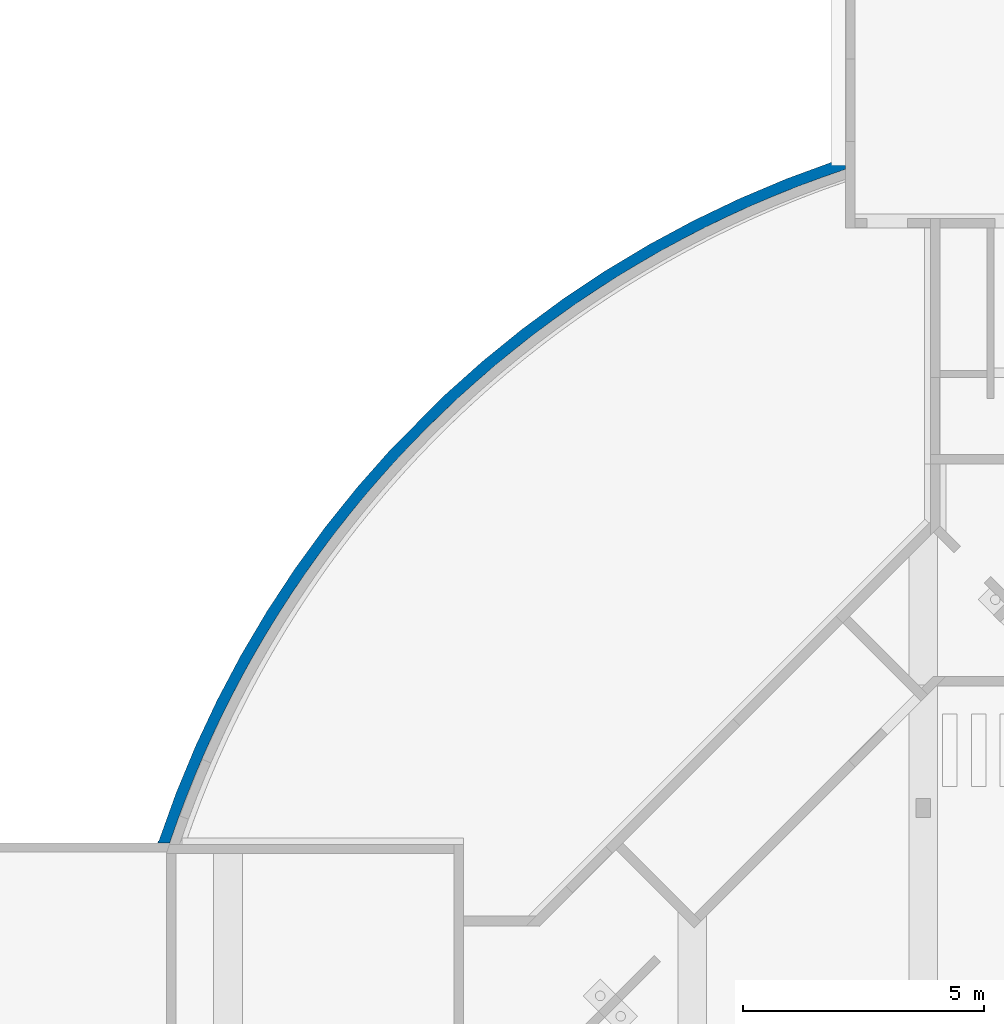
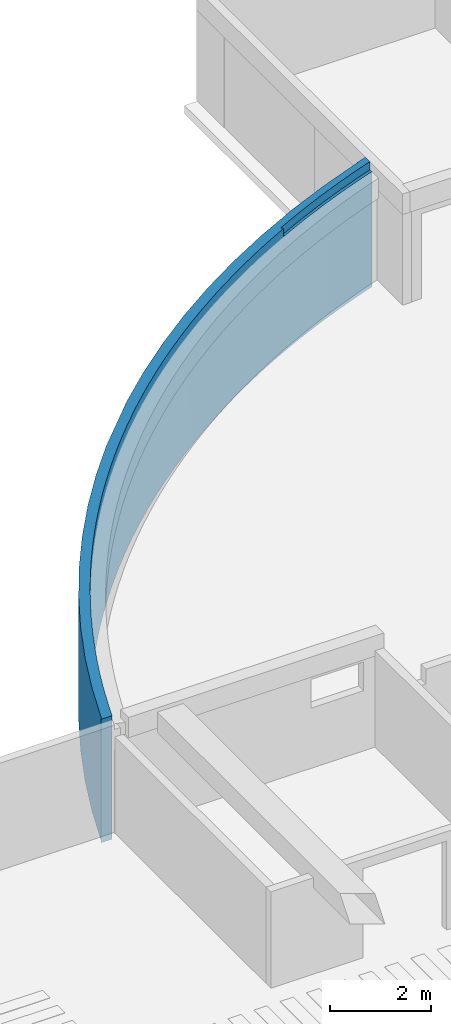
# One storey, part 10 of 12: 1 wall.
"""IFC4X3_ADD2 building model written with IfcOpenShell, lengths in millimetres."""

from ifc_helpers import new_model, si_unit, direction, frame, origin_with_axes, place, context, subcontext, project, spatial, polygons, element, save


model = new_model("IFC4X3_ADD2")

# Units and contexts
model_context = context("Model", 3, precision=1e-05, world=origin_with_axes(), true_north=direction((0.0, 1.0)))
body_context = subcontext(model_context, "Body", "Model", "MODEL_VIEW")
ifc_project = project(units=[si_unit("LENGTHUNIT", "METRE", prefix="MILLI"), si_unit("AREAUNIT", "SQUARE_METRE"), si_unit("VOLUMEUNIT", "CUBIC_METRE"), si_unit("PLANEANGLEUNIT", "RADIAN"), si_unit("TIMEUNIT", "SECOND"), si_unit("MASSUNIT", "GRAM")], contexts=[model_context])

# Site, building, storey
site_placement = place(None, origin_with_axes())
site = spatial("IfcSite", under=ifc_project, at=site_placement, Name="Site", CompositionType="ELEMENT")
building_placement = place(site_placement, origin_with_axes())
building = spatial("IfcBuilding", under=site, at=building_placement, Name="IFC Building Story")
storey_placement = place(building_placement, frame((0.0, 0.0, -5940.0), z_axis=(0.0, 0.0, 1.0), x_axis=(1.0, 0.0, 0.0)))
storey = spatial("IfcBuildingStorey", under=building, at=storey_placement, Name="K20", Elevation=-5940.0)

# Wall
wall_placement = place(storey_placement, frame((0.0, 0.0, 5940.0), z_axis=(0.0, 0.0, 1.0), x_axis=(1.0, 0.0, 0.0)))
element("IfcWall", 1, at=wall_placement, inside=storey, Name="Basic Wall:BB_XX_Wand uit beton, 240 mm", ObjectType="Basic Wall:BB_XX_Wand uit beton, 240 mm", PredefinedType="SOLIDWALL", context=body_context, shape_type="Tessellation", body=[
    polygons([(-44957.61071340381, 30740.80396451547, -5771.250000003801), (-44962.87173923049, 30725.00000000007, -5864.999999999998), (-44962.8717392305, 30725.00000000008, -5677.499999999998), (-44956.96422718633, 30742.74329582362, -5447.034995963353), (-44956.28592506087, 30744.77743647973, -5299.469790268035), (-44951.20297659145, 30760.00000000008, -5394.170662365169), (-44957.04454322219, 30742.50239553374, -3485.31399839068), (-44957.69724518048, 30740.5443415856, -3362.65696299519), (-44951.20297659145, 30760.00000000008, -3403.54266559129), (-44957.18347912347, 30742.08564911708, -4968.13092286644), (-44957.32562790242, 30741.65923737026, -4833.75000000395), (-44951.20297659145, 30760.00000000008, -4971.25599354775), (-44962.87173923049, 30725.00000000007, -6052.499999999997), (-44956.83008557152, 30743.14562056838, -6011.614333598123), (-44957.04451634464, 30742.50247615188, -6239.999999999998), (-44951.20297659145, 30760.00000000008, -3240.0), (-44956.87726490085, 30743.00412067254, -3952.39406231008), (-44962.87173923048, 30725.00000000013, -3990.0), (-44962.87173923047, 30725.00000000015, -3778.54266559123), (-44951.20297659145, 30760.00000000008, -3567.08533118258), (-44951.20297659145, 30760.00000000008, -3730.62799677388), (-44957.04454322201, 30742.50239553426, -3631.54447925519), (-44951.20297659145, 30760.00000000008, -6076.457334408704), (-44951.20297659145, 30760.00000000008, -6239.999999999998), (-44951.20297659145, 30760.00000000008, -4384.79865913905), (-44957.23727010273, 30741.92429261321, -4432.39081819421), (-44957.15229315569, 30742.17919562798, -4288.70092548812), (-44962.87173923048, 30725.00000000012, -4552.5), (-44956.97706240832, 30742.70479840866, -4646.25000000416), (-44962.87173923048, 30725.00000000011, -4740.0), (-44962.87173923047, 30725.00000000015, -3567.08533118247), (-44962.87173923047, 30725.00000000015, -3403.54266559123), (-44962.8717392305, 30725.00000000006, -6239.999999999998), (-44962.87173923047, 30725.00000000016, -3240.0), (-44957.04451634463, 30742.50247615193, -3240.0), (-44951.20297659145, 30760.00000000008, -5946.771332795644), (-44956.06393574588, 30745.44301333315, -5889.531389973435), (-44956.6007533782, 30743.8333873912, -4139.484660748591), (-44951.20297659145, 30760.00000000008, -4057.71332795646), (-44951.20297659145, 30760.00000000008, -5182.71332795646), (-44957.22492985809, 30741.96130993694, -5164.590191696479), (-44951.20297659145, 30760.00000000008, -5605.627996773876), (-44951.20297659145, 30760.00000000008, -5817.085331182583), (-44956.57544355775, 30743.9092869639, -3812.3993295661), (-44951.20297659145, 30760.00000000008, -3894.17066236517), (-44951.20297659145, 30760.00000000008, -4221.25599354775), (-44962.87173923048, 30725.00000000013, -4177.5), (-44951.20297659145, 30760.00000000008, -4548.34132473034), (-44962.87173923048, 30725.00000000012, -4365.0), (-44951.20297659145, 30760.00000000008, -4759.79865913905), (-44962.87173923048, 30725.0000000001, -4927.5), (-44962.87173923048, 30725.00000000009, -5302.499999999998), (-44962.87173923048, 30725.00000000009, -5115.0), (-44951.20297659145, 30760.00000000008, -5499.899329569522), (-44957.1187490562, 30742.2798141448, -5635.466320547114), (-44962.87173923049, 30725.00000000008, -5489.999999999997), (-42107.69052316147, 36421.11836684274, -3240.0), (-42689.0532110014, 35536.80213006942, -3240.0), (-43228.05822762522, 34626.0489398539, -3240.0), (-43723.50576242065, 33690.88610820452, -3240.0), (-44174.29296255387, 32733.3952823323, -3240.0), (-44579.41638788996, 31755.70781096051, -3240.0), (-44937.97424462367, 30760.00000000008, -3240.0), (-44709.80299402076, 30724.99999999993, -3240.0), (-44546.91632762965, 31191.84896292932, -3240.0), (-44373.68409518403, 31654.95828572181, -3240.0), (-44190.1919570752, 32114.09901194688, -3240.0), (-43996.5307779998, 32569.04379847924, -3240.0), (-43792.79642581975, 33019.56746159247, -3240.0), (-43579.08975268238, 33465.44700847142, -3240.0), (-43355.51654612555, 33906.46174495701, -3240.0), (-43122.18747666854, 34342.39338487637, -3240.0), (-42879.21804303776, 34773.0261580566, -3240.0), (-42626.72851500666, 35198.14691708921, -3240.0), (-42364.84387387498, 35617.54524279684, -3240.0), (-42093.6937506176, 36031.01354835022, -3240.0), (-41813.41132021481, 36438.34846746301, -3240.0), (-41755.62964916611, 36519.96363634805, -3240.0), (-41697.48282213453, 36601.315704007, -3240.0), (-41399.60855972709, 37006.34075714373, -3240.0), (-41092.64907199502, 37404.52295544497, -3240.0), (-40776.76079448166, 37795.65945327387, -3240.0), (-40452.10539174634, 38179.55007827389, -3240.0), (-40118.84901483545, 38555.99836616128, -3240.0), (-39777.16221996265, 38924.81165734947, -3240.0), (-39427.21972148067, 39285.80113533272, -3240.0), (-39356.64754018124, 39356.65304337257, -3240.0), (-39285.75726390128, 39427.18641922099, -3240.0), (-38970.77449346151, 39733.07184844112, -3240.0), (-38649.81068609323, 40032.67454222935, -3240.0), (-38322.99103836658, 40325.87770988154, -3240.0), (-37990.44332941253, 40612.56675863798, -3240.0), (-37652.29714860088, 40892.6300104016, -3240.0), (-37308.68425448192, 41165.9583554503, -3240.0), (-36959.73852418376, 41432.4452943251, -3240.0), (-36605.59738888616, 41691.9858606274, -3240.0), (-36524.22603883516, 41750.1171525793, -3240.0), (-36442.59373093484, 41807.8816581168, -3240.0), (-36069.00836085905, 42065.314716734, -3240.0), (-35690.24490969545, 42315.0683324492, -3240.0), (-35306.4618398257, 42557.038113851, -3240.0), (-34917.818967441, 42791.1232781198, -3240.0), (-34524.4781248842, 43017.2263204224, -3240.0), (-34126.6031359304, 43235.2530311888, -3240.0), (-33724.3600645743, 43445.1123790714, -3240.0), (-33317.9150642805, 43646.7176000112, -3240.0), (-33343.8810336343, 43699.8186332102, -3240.0), (-32907.6629957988, 43907.3169395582, -3240.0), (-32467.0639723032, 44105.3427564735, -3240.0), (-32022.289629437, 44293.8036479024, -3240.0), (-31573.5475824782, 44472.6116425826, -3240.0), (-31121.0472987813, 44641.6832751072, -3240.0), (-30665.0, 44800.939624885, -3240.0), (-30665.0, 44976.9637185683, -3240.0), (-30782.6114416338, 44937.9199236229, -3240.0), (-30899.99999999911, 44898.2298687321, -3240.0), (-30899.9999999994, 44890.7472450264, -3240.0), (-31893.3244327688, 44525.6385588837, -3240.0), (-32868.32219506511, 44114.0840121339, -3240.0), (-33822.8229681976, 43656.9997140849, -3240.0), (-34754.7020592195, 43155.4031220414, -3240.0), (-35661.88513043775, 42610.4107764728, -3240.0), (-36542.35281683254, 42023.2358156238, -3240.0), (-37394.1452211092, 41395.1852751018, -3240.0), (-38215.3662763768, 40727.6571784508, -3240.0), (-39004.18796674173, 40022.13742518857, -3240.0), (-39563.51966173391, 39459.10926526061, -3240.0), (-40122.85135672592, 38896.08110533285, -3240.0), (-40823.15993081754, 38102.62935349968, -3240.0), (-41485.26426175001, 37277.02918611, -3240.0), (-30665.00000000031, 44724.1671997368, -3440.0), (-30664.99999999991, 44800.939624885, -3440.0), (-31121.0468241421, 44641.6834466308, -3440.0), (-31573.5472051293, 44472.6117882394, -3440.0), (-32022.28934833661, 44293.8037634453, -3440.0), (-32467.0637862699, 44105.3428376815, -3440.0), (-32907.6629033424, 43907.31698231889, -3440.0), (-33343.8810336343, 43699.8186332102, -3440.0), (-33317.91506428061, 43646.7176000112, -3440.0), (-32885.7517597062, 43849.9117197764, -3440.0), (-32449.3222481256, 44043.7731485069, -3440.0), (-32008.82804356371, 44228.2123739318, -3440.0), (-31564.4725368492, 44403.1442343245, -3440.0), (-31116.4609017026, 44568.4879578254, -3440.0), (-30782.6114416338, 44937.9199236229, -6239.999999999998), (-30665.0, 44976.9637185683, -6239.999999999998), (-30665.0000000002, 44724.1671997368, -6239.999999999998), (-31163.0547118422, 44551.8000506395, -6239.999999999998), (-31656.882006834, 44367.6709307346, -6239.999999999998), (-32146.20416048, 44171.8833927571, -6239.999999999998), (-32630.7459819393, 43964.5475460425, -6239.999999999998), (-33110.2349687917, 43745.7799946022, -6239.999999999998), (-33584.40146029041, 43515.7037715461, -6239.999999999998), (-34052.9787890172, 43274.4482698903, -6239.999999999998), (-34515.703430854, 43022.149169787, -6239.999999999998), (-34972.31515318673, 42758.9483622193, -6239.999999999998), (-35422.55716125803, 42484.9938692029, -6239.999999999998), (-35866.17624258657, 42200.4397605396, -6239.999999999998), (-36302.92290937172, 41905.4460671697, -6239.999999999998), (-36732.55153880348, 41600.1786911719, -6239.999999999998), (-37154.82051119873, 41284.8093124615, -6239.999999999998), (-37569.49234588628, 40959.5152922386, -6239.999999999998), (-37976.33383476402, 40624.47957324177, -6239.999999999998), (-38375.11617345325, 40279.89057686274, -6239.999999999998), (-38765.61508997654, 39925.94209717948, -6239.999999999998), (-39147.61097088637, 39562.83319196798, -6239.999999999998), (-39520.88898477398, 39190.76807075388, -6239.999999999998), (-39885.23920308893, 38809.95597996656, -6239.999999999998), (-40240.4567182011, 38420.61108526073, -6239.999999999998), (-40586.34175863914, 38022.95235107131, -6239.999999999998), (-40922.69980144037, 37617.20341746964, -6239.999999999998), (-41249.34168154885, 37203.59247439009, -6239.999999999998), (-41566.08369820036, 36782.35213329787, -6239.999999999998), (-41872.74771823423, 36353.71929637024, -6239.999999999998), (-42169.16127627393, 35917.93502326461, -6239.999999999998), (-42455.15767172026, 35475.24439554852, -6239.999999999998), (-42730.57606250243, 35025.89637886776, -6239.999999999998), (-42995.26155553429, 34570.14368293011, -6239.999999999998), (-43249.06529382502, 34108.24261938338, -6239.999999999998), (-43491.84454019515, 33640.45295766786, -6239.999999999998), (-43723.46275755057, 33167.03777892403, -6239.999999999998), (-43943.7896856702, 32688.26332803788, -6239.999999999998), (-44152.70141446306, 32204.39886390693, -6239.999999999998), (-44350.08045365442, 31715.71650801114, -6239.999999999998), (-44535.81579886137, 31222.49109137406, -6239.999999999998), (-44709.80299402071, 30725.00000000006, -6239.999999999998), (-44937.97424462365, 30760.00000000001, -6239.999999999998), (-44579.41638788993, 31755.70781096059, -6239.999999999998), (-44174.29296255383, 32733.39528233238, -6239.999999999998), (-43723.50576242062, 33690.88610820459, -6239.999999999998), (-43228.05822762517, 34626.04893985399, -6239.999999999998), (-42689.05321100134, 35536.8021300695, -6239.999999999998), (-42107.69052316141, 36421.11836684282, -6239.999999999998), (-41485.26426174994, 37277.02918611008, -6239.999999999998), (-40823.15993081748, 38102.62935349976, -6239.999999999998), (-40122.85135672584, 38896.08110533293, -6239.999999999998), (-39563.51966173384, 39459.10926526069, -6239.999999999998), (-39004.18796674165, 40022.13742518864, -6239.999999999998), (-38215.36627637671, 40727.6571784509, -6239.999999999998), (-37394.14522110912, 41395.1852751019, -6239.999999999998), (-36542.35281683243, 42023.2358156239, -6239.999999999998), (-35661.88513043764, 42610.4107764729, -6239.999999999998), (-34754.7020592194, 43155.4031220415, -6239.999999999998), (-33822.82296819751, 43656.9997140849, -6239.999999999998), (-32868.322195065, 44114.084012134, -6239.999999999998), (-31893.3244327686, 44525.6385588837, -6239.999999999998), (-30899.99999999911, 44890.7472450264, -6239.999999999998), (-30899.99999999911, 44898.2298687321, -6239.999999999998), (-30776.4831792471, 44939.9721427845, -5067.08533122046), (-30899.99999999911, 44898.2298687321, -3894.1706625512), (-30774.9741584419, 44940.4771795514, -4152.67900881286), (-30899.99999999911, 44898.2298687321, -4740.0), (-30665.0000000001, 44976.9637185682, -5585.829337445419), (-30665.0000000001, 44976.9637185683, -4548.34132510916)], [[[1, 2, 3]], [[4, 5, 6]], [[7, 8, 9]], [[10, 11, 12]], [[13, 14, 15]], [[16, 9, 8]], [[17, 18, 19]], [[20, 21, 22]], [[22, 7, 9]], [[22, 9, 20]], [[23, 24, 15]], [[25, 26, 27]], [[28, 29, 30]], [[31, 32, 7]], [[31, 7, 22]], [[22, 19, 31]], [[13, 15, 33]], [[34, 35, 8]], [[28, 26, 29]], [[36, 14, 37]], [[38, 17, 39]], [[40, 41, 12]], [[1, 42, 43]], [[37, 2, 1]], [[7, 32, 8]], [[44, 22, 21]], [[19, 44, 17]], [[21, 45, 44]], [[15, 14, 23]], [[23, 14, 36]], [[2, 14, 13]], [[44, 45, 17]], [[22, 44, 19]], [[38, 39, 46]], [[47, 38, 27]], [[17, 45, 39]], [[17, 38, 18]], [[27, 38, 46]], [[38, 47, 18]], [[48, 29, 26]], [[47, 27, 49]], [[27, 46, 25]], [[48, 26, 25]], [[27, 26, 49]], [[28, 49, 26]], [[48, 50, 29]], [[10, 51, 11]], [[30, 11, 51]], [[11, 29, 50]], [[29, 11, 30]], [[12, 11, 50]], [[5, 4, 52]], [[53, 51, 10]], [[41, 10, 12]], [[6, 54, 4]], [[40, 5, 41]], [[1, 3, 55]], [[42, 1, 55]], [[43, 36, 37]], [[3, 56, 55]], [[55, 54, 42]], [[4, 55, 56]], [[55, 4, 54]], [[52, 4, 56]], [[41, 52, 53]], [[40, 6, 5]], [[2, 37, 14]], [[43, 37, 1]], [[52, 41, 5]], [[10, 41, 53]], [[34, 8, 32]], [[8, 35, 16]], [[35, 34, 63]], [[63, 16, 35]], [[65, 66, 62]], [[63, 34, 64]], [[64, 65, 62]], [[64, 62, 63]], [[67, 68, 61]], [[67, 61, 62]], [[62, 66, 67]], [[69, 70, 60]], [[69, 60, 61]], [[61, 68, 69]], [[71, 72, 59]], [[71, 59, 60]], [[60, 70, 71]], [[74, 75, 58]], [[58, 59, 73]], [[58, 73, 74]], [[59, 72, 73]], [[76, 77, 57]], [[57, 58, 75]], [[57, 75, 76]], [[117, 112, 113]], [[117, 113, 115]], [[115, 116, 117]], [[113, 114, 115]], [[117, 118, 111]], [[117, 111, 112]], [[118, 110, 111]], [[118, 119, 109]], [[118, 109, 110]], [[119, 108, 109]], [[119, 120, 107]], [[119, 107, 108]], [[120, 105, 107]], [[105, 106, 107]], [[120, 104, 105]], [[120, 121, 103]], [[120, 103, 104]], [[121, 102, 103]], [[121, 122, 101]], [[121, 101, 102]], [[122, 100, 101]], [[122, 123, 99]], [[122, 99, 100]], [[123, 98, 99]], [[123, 97, 98]], [[123, 96, 97]], [[123, 124, 95]], [[123, 95, 96]], [[124, 94, 95]], [[124, 93, 94]], [[124, 125, 92]], [[124, 92, 93]], [[125, 91, 92]], [[125, 126, 90]], [[125, 90, 91]], [[126, 89, 90]], [[126, 127, 88]], [[126, 88, 89]], [[127, 87, 88]], [[127, 86, 87]], [[127, 128, 85]], [[127, 85, 86]], [[128, 84, 85]], [[128, 129, 83]], [[128, 83, 84]], [[129, 82, 83]], [[129, 130, 81]], [[129, 81, 82]], [[130, 80, 81]], [[130, 57, 79]], [[130, 79, 80]], [[57, 78, 79]], [[57, 77, 78]], [[137, 138, 139]], [[137, 139, 140]], [[140, 141, 136]], [[140, 136, 137]], [[141, 142, 135]], [[141, 135, 136]], [[142, 143, 134]], [[142, 134, 135]], [[143, 144, 133]], [[143, 133, 134]], [[144, 131, 132]], [[144, 132, 133]], [[145, 146, 147]], [[187, 188, 185]], [[187, 185, 186]], [[186, 15, 187]], [[15, 24, 187]], [[186, 33, 15]], [[188, 184, 185]], [[188, 189, 183]], [[188, 183, 184]], [[189, 182, 183]], [[189, 190, 181]], [[189, 181, 182]], [[190, 180, 181]], [[190, 191, 179]], [[190, 179, 180]], [[191, 178, 179]], [[191, 192, 177]], [[191, 177, 178]], [[192, 176, 177]], [[192, 193, 175]], [[192, 175, 176]], [[193, 174, 175]], [[193, 194, 173]], [[193, 173, 174]], [[194, 172, 173]], [[194, 195, 171]], [[194, 171, 172]], [[195, 170, 171]], [[195, 196, 169]], [[195, 169, 170]], [[196, 168, 169]], [[196, 197, 167]], [[196, 167, 168]], [[197, 166, 167]], [[197, 198, 165]], [[197, 165, 166]], [[198, 199, 164]], [[198, 164, 165]], [[199, 163, 164]], [[199, 200, 162]], [[199, 162, 163]], [[200, 161, 162]], [[200, 201, 160]], [[200, 160, 161]], [[201, 159, 160]], [[201, 202, 158]], [[201, 158, 159]], [[202, 157, 158]], [[202, 203, 156]], [[202, 156, 157]], [[203, 155, 156]], [[203, 204, 154]], [[203, 154, 155]], [[204, 153, 154]], [[204, 205, 152]], [[204, 152, 153]], [[205, 151, 152]], [[205, 206, 150]], [[205, 150, 151]], [[206, 149, 150]], [[206, 207, 148]], [[206, 148, 149]], [[207, 208, 145]], [[145, 147, 148]], [[145, 148, 207]], [[145, 208, 209]], [[115, 210, 116]], [[210, 115, 211]], [[212, 209, 208]], [[213, 146, 145]], [[214, 213, 209]], [[145, 209, 213]], [[211, 214, 209]], [[210, 211, 212]], [[211, 209, 212]], [[114, 214, 211]], [[114, 211, 115]], [[186, 65, 64]], [[183, 68, 67]], [[184, 67, 66]], [[185, 66, 65]], [[180, 71, 70]], [[181, 70, 69]], [[177, 74, 73]], [[178, 73, 72]], [[179, 72, 71]], [[182, 69, 68]], [[175, 76, 75]], [[174, 79, 78]], [[174, 78, 77]], [[174, 77, 76]], [[171, 82, 81]], [[172, 81, 80]], [[168, 85, 84]], [[169, 84, 83]], [[170, 83, 82]], [[173, 80, 79]], [[176, 75, 74]], [[184, 66, 185]], [[184, 183, 67]], [[182, 68, 183]], [[182, 181, 69]], [[181, 180, 70]], [[180, 179, 71]], [[72, 179, 178]], [[178, 177, 73]], [[177, 176, 74]], [[186, 185, 65]], [[174, 173, 79]], [[76, 175, 174]], [[87, 86, 167]], [[173, 172, 80]], [[175, 75, 176]], [[87, 167, 166]], [[81, 172, 171]], [[82, 171, 170]], [[169, 83, 170]], [[84, 169, 168]], [[85, 168, 167]], [[166, 88, 87]], [[167, 86, 85]], [[90, 89, 165]], [[93, 92, 163]], [[92, 91, 163]], [[91, 90, 164]], [[96, 95, 160]], [[95, 94, 161]], [[99, 98, 159]], [[98, 97, 159]], [[97, 96, 160]], [[94, 93, 162]], [[101, 100, 157]], [[104, 103, 155]], [[103, 102, 155]], [[102, 101, 156]], [[139, 106, 105]], [[154, 105, 104]], [[150, 142, 141]], [[151, 141, 140]], [[152, 140, 139]], [[158, 100, 99]], [[139, 105, 153]], [[164, 90, 165]], [[164, 163, 91]], [[162, 93, 163]], [[162, 161, 94]], [[161, 160, 95]], [[160, 159, 97]], [[99, 159, 158]], [[158, 157, 100]], [[157, 156, 101]], [[166, 165, 89]], [[154, 153, 105]], [[104, 155, 154]], [[144, 143, 148]], [[153, 152, 139]], [[155, 102, 156]], [[131, 144, 147]], [[140, 152, 151]], [[141, 151, 150]], [[149, 142, 150]], [[149, 148, 143]], [[148, 147, 144]], [[142, 149, 143]], [[88, 166, 89]], [[134, 133, 112, 111]], [[135, 134, 111, 110]], [[113, 112, 133, 132]], [[137, 136, 109, 108]], [[138, 137, 108, 107]], [[109, 136, 135, 110]], [[138, 107, 106, 139]], [[63, 62, 188, 187]], [[127, 126, 198]], [[127, 198, 197]], [[197, 196, 128]], [[197, 128, 127]], [[60, 59, 191, 190]], [[61, 60, 190, 189]], [[62, 61, 189, 188]], [[58, 57, 193, 192]], [[129, 128, 196, 195]], [[130, 129, 195, 194]], [[57, 130, 194, 193]], [[59, 58, 192, 191]], [[126, 125, 199, 198]], [[123, 122, 202, 201]], [[124, 123, 201, 200]], [[125, 124, 200, 199]], [[121, 120, 204, 203]], [[118, 117, 207, 206]], [[119, 118, 206, 205]], [[120, 119, 205, 204]], [[122, 121, 203, 202]], [[9, 16, 63]], [[63, 20, 9]], [[63, 21, 20]], [[63, 45, 21]], [[63, 39, 45]], [[63, 46, 39]], [[63, 25, 46]], [[63, 48, 25]], [[63, 50, 48]], [[63, 12, 50]], [[63, 40, 12]], [[63, 6, 40]], [[63, 54, 6]], [[63, 42, 54]], [[63, 43, 42]], [[63, 36, 43]], [[63, 23, 36]], [[63, 187, 23]], [[187, 24, 23]], [[13, 33, 186]], [[186, 2, 13]], [[186, 3, 2]], [[186, 56, 3]], [[186, 52, 56]], [[186, 53, 52]], [[186, 51, 53]], [[186, 64, 30]], [[186, 30, 51]], [[64, 28, 30]], [[64, 49, 28]], [[64, 47, 49]], [[64, 18, 47]], [[64, 19, 18]], [[64, 31, 19]], [[64, 32, 31]], [[64, 34, 32]], [[212, 208, 207]], [[207, 210, 212]], [[207, 117, 210]], [[117, 116, 210]], [[132, 131, 147]], [[214, 114, 132]], [[132, 147, 213]], [[132, 213, 214]], [[147, 146, 213]], [[114, 113, 132]]]),
])

save(model, "model.ifc")
